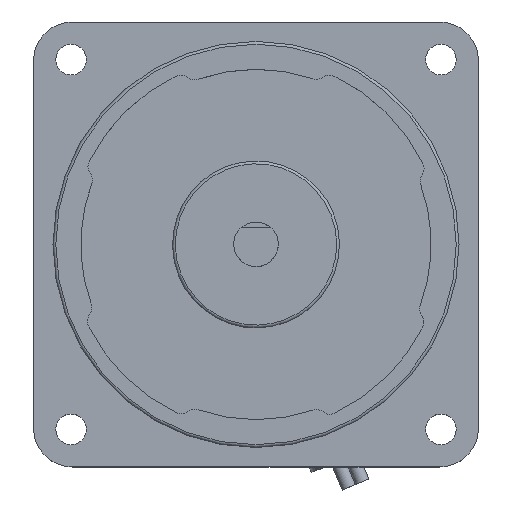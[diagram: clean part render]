
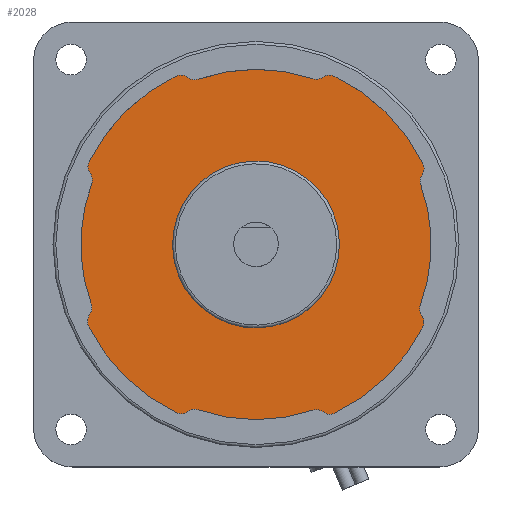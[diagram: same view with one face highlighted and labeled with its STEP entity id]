
A CAD part, top view. The second image highlights one B-rep face of the part: STEP entity #2028.
In plain terms, the highlighted planar face has unit normal (0, 0, 1).
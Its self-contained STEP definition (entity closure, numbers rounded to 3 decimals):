
#997=CARTESIAN_POINT('',(5.498,-13.956,2.0));
#998=VERTEX_POINT('',#997);
#999=CARTESIAN_POINT('',(0.0,0.0,2.));
#1000=DIRECTION('',(0.0,0.0,1.0));
#1001=DIRECTION('',(1.0,0.0,0.0));
#1002=AXIS2_PLACEMENT_3D('',#999,#1000,#1001);
#1003=CIRCLE('',#1002,15.0);
#1004=EDGE_CURVE('',#998,#998,#1003,.T.);
#1312=CARTESIAN_POINT('',(-30.013,14.882,2.));
#1313=VERTEX_POINT('',#1312);
#1314=CARTESIAN_POINT('',(-29.824,12.797,2.));
#1315=VERTEX_POINT('',#1314);
#1316=CARTESIAN_POINT('',(-28.221,13.993,2.));
#1317=DIRECTION('',(0.0,0.0,1.0));
#1318=DIRECTION('',(0.896,-0.444,0.0));
#1319=AXIS2_PLACEMENT_3D('',#1316,#1317,#1318);
#1320=CIRCLE('',#1319,2.);
#1321=EDGE_CURVE('',#1313,#1315,#1320,.T.);
#1344=CARTESIAN_POINT('',(-29.551,10.908,2.));
#1345=VERTEX_POINT('',#1344);
#1346=CARTESIAN_POINT('',(-31.427,11.601,2.));
#1347=DIRECTION('',(0.0,0.0,-1.0));
#1348=DIRECTION('',(0.938,-0.346,0.0));
#1349=AXIS2_PLACEMENT_3D('',#1346,#1347,#1348);
#1350=CIRCLE('',#1349,2.0);
#1351=EDGE_CURVE('',#1315,#1345,#1350,.T.);
#1369=CARTESIAN_POINT('',(-29.624,-10.708,2.));
#1370=VERTEX_POINT('',#1369);
#1371=CARTESIAN_POINT('',(0.0,0.0,2.));
#1372=DIRECTION('',(0.0,0.0,1.0));
#1373=DIRECTION('',(0.938,-0.346,0.0));
#1374=AXIS2_PLACEMENT_3D('',#1371,#1372,#1373);
#1375=CIRCLE('',#1374,31.5);
#1376=EDGE_CURVE('',#1345,#1370,#1375,.T.);
#1394=CARTESIAN_POINT('',(-29.902,-12.584,2.));
#1395=VERTEX_POINT('',#1394);
#1396=CARTESIAN_POINT('',(-31.505,-11.388,2.));
#1397=DIRECTION('',(0.0,0.0,-1.0));
#1398=DIRECTION('',(0.801,-0.598,0.0));
#1399=AXIS2_PLACEMENT_3D('',#1396,#1397,#1398);
#1400=CIRCLE('',#1399,2.0);
#1401=EDGE_CURVE('',#1370,#1395,#1400,.T.);
#1419=CARTESIAN_POINT('',(-30.097,-14.656,2.));
#1420=VERTEX_POINT('',#1419);
#1421=CARTESIAN_POINT('',(-28.299,-13.78,2.));
#1422=DIRECTION('',(0.0,0.0,1.0));
#1423=DIRECTION('',(0.801,-0.598,0.0));
#1424=AXIS2_PLACEMENT_3D('',#1421,#1422,#1423);
#1425=CIRCLE('',#1424,2.);
#1426=EDGE_CURVE('',#1395,#1420,#1425,.T.);
#1444=CARTESIAN_POINT('',(-14.331,-30.253,2.));
#1445=VERTEX_POINT('',#1444);
#1446=CARTESIAN_POINT('',(0.0,0.0,2.));
#1447=DIRECTION('',(0.0,0.0,1.0));
#1448=DIRECTION('',(0.899,0.438,0.0));
#1449=AXIS2_PLACEMENT_3D('',#1446,#1447,#1448);
#1450=CIRCLE('',#1449,33.476);
#1451=EDGE_CURVE('',#1420,#1445,#1450,.T.);
#1469=CARTESIAN_POINT('',(-12.262,-30.036,2.));
#1470=VERTEX_POINT('',#1469);
#1471=CARTESIAN_POINT('',(-13.475,-28.446,2.));
#1472=DIRECTION('',(0.0,0.0,1.0));
#1473=DIRECTION('',(0.428,0.904,0.0));
#1474=AXIS2_PLACEMENT_3D('',#1471,#1472,#1473);
#1475=CIRCLE('',#1474,2.0);
#1476=EDGE_CURVE('',#1445,#1470,#1475,.T.);
#1494=CARTESIAN_POINT('',(-10.389,-29.738,2.));
#1495=VERTEX_POINT('',#1494);
#1496=CARTESIAN_POINT('',(-11.048,-31.626,2.));
#1497=DIRECTION('',(0.0,0.0,-1.0));
#1498=DIRECTION('',(0.33,0.944,0.0));
#1499=AXIS2_PLACEMENT_3D('',#1496,#1497,#1498);
#1500=CIRCLE('',#1499,2.);
#1501=EDGE_CURVE('',#1470,#1495,#1500,.T.);
#1519=CARTESIAN_POINT('',(10.189,-29.807,2.));
#1520=VERTEX_POINT('',#1519);
#1521=CARTESIAN_POINT('',(0.0,0.0,2.));
#1522=DIRECTION('',(0.0,0.0,1.0));
#1523=DIRECTION('',(0.33,0.944,0.0));
#1524=AXIS2_PLACEMENT_3D('',#1521,#1522,#1523);
#1525=CIRCLE('',#1524,31.5);
#1526=EDGE_CURVE('',#1495,#1520,#1525,.T.);
#1544=CARTESIAN_POINT('',(12.049,-30.109,2.));
#1545=VERTEX_POINT('',#1544);
#1546=CARTESIAN_POINT('',(10.836,-31.699,2.));
#1547=DIRECTION('',(0.0,0.0,-1.0));
#1548=DIRECTION('',(0.607,0.795,0.0));
#1549=AXIS2_PLACEMENT_3D('',#1546,#1547,#1548);
#1550=CIRCLE('',#1549,2.0);
#1551=EDGE_CURVE('',#1520,#1545,#1550,.T.);
#1569=CARTESIAN_POINT('',(14.106,-30.332,2.));
#1570=VERTEX_POINT('',#1569);
#1571=CARTESIAN_POINT('',(13.263,-28.519,2.));
#1572=DIRECTION('',(0.0,0.0,1.0));
#1573=DIRECTION('',(0.607,0.795,0.0));
#1574=AXIS2_PLACEMENT_3D('',#1571,#1572,#1573);
#1575=CIRCLE('',#1574,2.);
#1576=EDGE_CURVE('',#1545,#1570,#1575,.T.);
#1594=CARTESIAN_POINT('',(29.984,-14.832,2.));
#1595=VERTEX_POINT('',#1594);
#1596=CARTESIAN_POINT('',(0.0,0.0,2.));
#1597=DIRECTION('',(0.0,0.0,1.0));
#1598=DIRECTION('',(-0.422,0.907,0.0));
#1599=AXIS2_PLACEMENT_3D('',#1596,#1597,#1598);
#1600=CIRCLE('',#1599,33.452);
#1601=EDGE_CURVE('',#1570,#1595,#1600,.T.);
#1619=CARTESIAN_POINT('',(29.81,-12.771,2.));
#1620=VERTEX_POINT('',#1619);
#1621=CARTESIAN_POINT('',(28.191,-13.945,2.));
#1622=DIRECTION('',(0.0,0.0,1.0));
#1623=DIRECTION('',(-0.896,0.443,0.0));
#1624=AXIS2_PLACEMENT_3D('',#1621,#1622,#1623);
#1625=CIRCLE('',#1624,2.);
#1626=EDGE_CURVE('',#1595,#1620,#1625,.T.);
#1644=CARTESIAN_POINT('',(29.553,-10.904,2.));
#1645=VERTEX_POINT('',#1644);
#1646=CARTESIAN_POINT('',(31.429,-11.596,2.));
#1647=DIRECTION('',(0.0,0.0,-1.0));
#1648=DIRECTION('',(-0.938,0.346,0.0));
#1649=AXIS2_PLACEMENT_3D('',#1646,#1647,#1648);
#1650=CIRCLE('',#1649,2.0);
#1651=EDGE_CURVE('',#1620,#1645,#1650,.T.);
#1669=CARTESIAN_POINT('',(29.624,10.709,2.));
#1670=VERTEX_POINT('',#1669);
#1671=CARTESIAN_POINT('',(0.0,0.0,2.));
#1672=DIRECTION('',(0.0,0.0,1.0));
#1673=DIRECTION('',(-0.938,0.346,0.0));
#1674=AXIS2_PLACEMENT_3D('',#1671,#1672,#1673);
#1675=CIRCLE('',#1674,31.5);
#1676=EDGE_CURVE('',#1645,#1670,#1675,.T.);
#1694=CARTESIAN_POINT('',(29.862,12.531,2.));
#1695=VERTEX_POINT('',#1694);
#1696=CARTESIAN_POINT('',(31.505,11.389,2.));
#1697=DIRECTION('',(0.0,0.0,-1.0));
#1698=DIRECTION('',(-0.821,0.571,0.0));
#1699=AXIS2_PLACEMENT_3D('',#1696,#1697,#1698);
#1700=CIRCLE('',#1699,2.);
#1701=EDGE_CURVE('',#1670,#1695,#1700,.T.);
#1719=CARTESIAN_POINT('',(30.02,14.544,2.));
#1720=VERTEX_POINT('',#1719);
#1721=CARTESIAN_POINT('',(28.22,13.672,2.));
#1722=DIRECTION('',(0.0,0.0,1.0));
#1723=DIRECTION('',(-0.821,0.571,0.0));
#1724=AXIS2_PLACEMENT_3D('',#1721,#1722,#1723);
#1725=CIRCLE('',#1724,2.);
#1726=EDGE_CURVE('',#1695,#1720,#1725,.T.);
#1744=CARTESIAN_POINT('',(14.017,30.27,2.));
#1745=VERTEX_POINT('',#1744);
#1746=CARTESIAN_POINT('',(0.0,0.0,2.));
#1747=DIRECTION('',(0.0,0.0,1.0));
#1748=DIRECTION('',(-0.9,-0.436,0.0));
#1749=AXIS2_PLACEMENT_3D('',#1746,#1747,#1748);
#1750=CIRCLE('',#1749,33.358);
#1751=EDGE_CURVE('',#1720,#1745,#1750,.T.);
#1769=CARTESIAN_POINT('',(12.006,30.077,2.));
#1770=VERTEX_POINT('',#1769);
#1771=CARTESIAN_POINT('',(13.176,28.455,2.));
#1772=DIRECTION('',(0.0,0.0,1.0));
#1773=DIRECTION('',(-0.42,-0.907,0.0));
#1774=AXIS2_PLACEMENT_3D('',#1771,#1772,#1773);
#1775=CIRCLE('',#1774,2.);
#1776=EDGE_CURVE('',#1745,#1770,#1775,.T.);
#1794=CARTESIAN_POINT('',(10.189,29.807,2.));
#1795=VERTEX_POINT('',#1794);
#1796=CARTESIAN_POINT('',(10.836,31.699,2.));
#1797=DIRECTION('',(0.0,0.0,-1.0));
#1798=DIRECTION('',(-0.323,-0.946,0.0));
#1799=AXIS2_PLACEMENT_3D('',#1796,#1797,#1798);
#1800=CIRCLE('',#1799,2.);
#1801=EDGE_CURVE('',#1770,#1795,#1800,.T.);
#1819=CARTESIAN_POINT('',(-10.398,29.734,2.));
#1820=VERTEX_POINT('',#1819);
#1821=CARTESIAN_POINT('',(0.0,0.0,2.));
#1822=DIRECTION('',(0.0,0.0,1.0));
#1823=DIRECTION('',(-0.323,-0.946,0.0));
#1824=AXIS2_PLACEMENT_3D('',#1821,#1822,#1823);
#1825=CIRCLE('',#1824,31.5);
#1826=EDGE_CURVE('',#1795,#1820,#1825,.T.);
#1844=CARTESIAN_POINT('',(-12.282,30.04,2.));
#1845=VERTEX_POINT('',#1844);
#1846=CARTESIAN_POINT('',(-11.058,31.622,2.));
#1847=DIRECTION('',(0.0,0.0,-1.0));
#1848=DIRECTION('',(-0.612,-0.791,0.0));
#1849=AXIS2_PLACEMENT_3D('',#1846,#1847,#1848);
#1850=CIRCLE('',#1849,2.);
#1851=EDGE_CURVE('',#1820,#1845,#1850,.T.);
#1869=CARTESIAN_POINT('',(-14.363,30.265,2.));
#1870=VERTEX_POINT('',#1869);
#1871=CARTESIAN_POINT('',(-13.505,28.458,2.));
#1872=DIRECTION('',(0.0,0.0,1.0));
#1873=DIRECTION('',(-0.612,-0.791,0.0));
#1874=AXIS2_PLACEMENT_3D('',#1871,#1872,#1873);
#1875=CIRCLE('',#1874,2.);
#1876=EDGE_CURVE('',#1845,#1870,#1875,.T.);
#1894=CARTESIAN_POINT('',(0.0,0.0,2.));
#1895=DIRECTION('',(0.0,0.0,1.0));
#1896=DIRECTION('',(0.429,-0.903,0.0));
#1897=AXIS2_PLACEMENT_3D('',#1894,#1895,#1896);
#1898=CIRCLE('',#1897,33.5);
#1899=EDGE_CURVE('',#1870,#1313,#1898,.T.);
#1994=CARTESIAN_POINT('',(-0.045,-0.02,2.));
#1995=DIRECTION('',(0.0,0.0,1.0));
#1996=DIRECTION('',(1.0,0.0,0.0));
#1997=AXIS2_PLACEMENT_3D('',#1994,#1995,#1996);
#1998=PLANE('',#1997);
#1999=ORIENTED_EDGE('',*,*,#1899,.T.);
#2000=ORIENTED_EDGE('',*,*,#1321,.T.);
#2001=ORIENTED_EDGE('',*,*,#1351,.T.);
#2002=ORIENTED_EDGE('',*,*,#1376,.T.);
#2003=ORIENTED_EDGE('',*,*,#1401,.T.);
#2004=ORIENTED_EDGE('',*,*,#1426,.T.);
#2005=ORIENTED_EDGE('',*,*,#1451,.T.);
#2006=ORIENTED_EDGE('',*,*,#1476,.T.);
#2007=ORIENTED_EDGE('',*,*,#1501,.T.);
#2008=ORIENTED_EDGE('',*,*,#1526,.T.);
#2009=ORIENTED_EDGE('',*,*,#1551,.T.);
#2010=ORIENTED_EDGE('',*,*,#1576,.T.);
#2011=ORIENTED_EDGE('',*,*,#1601,.T.);
#2012=ORIENTED_EDGE('',*,*,#1626,.T.);
#2013=ORIENTED_EDGE('',*,*,#1651,.T.);
#2014=ORIENTED_EDGE('',*,*,#1676,.T.);
#2015=ORIENTED_EDGE('',*,*,#1701,.T.);
#2016=ORIENTED_EDGE('',*,*,#1726,.T.);
#2017=ORIENTED_EDGE('',*,*,#1751,.T.);
#2018=ORIENTED_EDGE('',*,*,#1776,.T.);
#2019=ORIENTED_EDGE('',*,*,#1801,.T.);
#2020=ORIENTED_EDGE('',*,*,#1826,.T.);
#2021=ORIENTED_EDGE('',*,*,#1851,.T.);
#2022=ORIENTED_EDGE('',*,*,#1876,.T.);
#2023=EDGE_LOOP('',(#1999,#2000,#2001,#2002,#2003,#2004,#2005,#2006,#2007,#2008,#2009,#2010,#2011,#2012,#2013,#2014,#2015,#2016,#2017,#2018,#2019,#2020,#2021,#2022));
#2024=FACE_OUTER_BOUND('',#2023,.T.);
#2025=ORIENTED_EDGE('',*,*,#1004,.F.);
#2026=EDGE_LOOP('',(#2025));
#2027=FACE_BOUND('',#2026,.T.);
#2028=ADVANCED_FACE('',(#2024,#2027),#1998,.T.);
